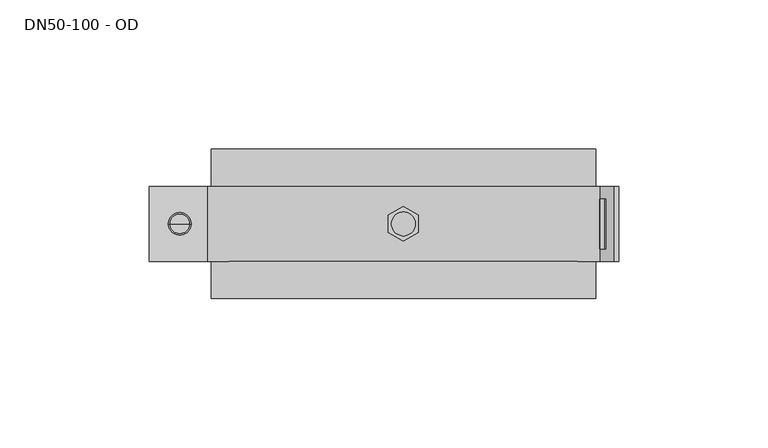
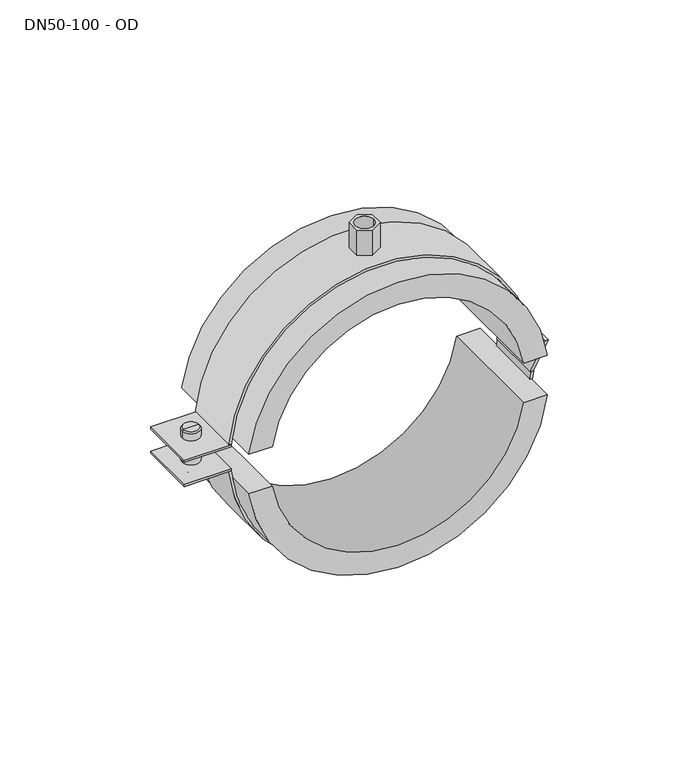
"""IFC4 building model written with IfcOpenShell, lengths in millimetres: unitary equipment geometry, NLRS_52_ME_UN_Geberit beugel geïsoleerd, met draadbus M8 _ M10_PRO_178429 : DN50-100 - OD."""

import ifcopenshell
import ifcopenshell.guid

model = None  # the IFC model being written
_history = None  # IfcOwnerHistory: only IFC2X3 demands one
_inside = {}  # id of a spatial element -> (the spatial element, [elements in it])
_under = {}  # id of a project, library or spatial element -> (it, [spatial elements below it])
_declared = {}  # id of a project -> (the project, [libraries it declares])
_typed = {}  # id of a type object -> (the type object, [elements of that type])
_made_of = {}  # id of a material, layer set ... -> (it, [elements and type objects made of it])


def new_model(schema):
    """Start an empty IFC model of exactly this schema.

    Asked for "IFC4X3", IfcOpenShell would pick the latest addendum, in which some entities
    have other attributes; the version numbers below select the first issue.
    IFC2X3 requires an IfcOwnerHistory on every rooted entity: one is made here for all.
    """
    global model, _history
    if schema == "IFC4X3":
        model = ifcopenshell.file(schema_version=(4, 3, 0, 0))
    else:
        model = ifcopenshell.file(schema=schema)
    _inside.clear()
    _under.clear()
    _declared.clear()
    _typed.clear()
    _made_of.clear()
    _history = None
    if model.schema == "IFC2X3":
        org = make("IfcOrganization", Name="unknown")
        user = make(
            "IfcPersonAndOrganization",
            ThePerson=make("IfcPerson", FamilyName="unknown"),
            TheOrganization=org,
        )
        app = make(
            "IfcApplication",
            ApplicationDeveloper=org,
            Version="unknown",
            ApplicationFullName="unknown",
            ApplicationIdentifier="unknown",
        )
        _history = make(
            "IfcOwnerHistory",
            OwningUser=user,
            OwningApplication=app,
            ChangeAction="ADDED",
            CreationDate=0,
        )
    return model


def make(cls, **values):
    """One entity of the class cls with the attributes given. An attribute that is None is left unset."""
    return model.create_entity(
        cls, **{name: value for name, value in values.items() if value is not None}
    )


def rooted(cls, **values):
    """An entity with a GlobalId (a new one), such as an element, a storey or a relation."""
    return make(cls, GlobalId=ifcopenshell.guid.new(), OwnerHistory=_history, **values)


def si_unit(unit_type, name, prefix=None):
    """IfcSIUnit, for example si_unit("LENGTHUNIT", "METRE", prefix="MILLI")."""
    return make("IfcSIUnit", UnitType=unit_type, Prefix=prefix, Name=name)


def assignment(units):
    """IfcUnitAssignment: the units of a project."""
    return None if units is None else make("IfcUnitAssignment", Units=units)


def point(xyz):
    """IfcCartesianPoint."""
    return None if xyz is None else make("IfcCartesianPoint", Coordinates=xyz)


def direction(xyz):
    """IfcDirection."""
    return None if xyz is None else make("IfcDirection", DirectionRatios=xyz)


def frame(location, z_axis=None, x_axis=None):
    """IfcAxis2Placement3D, a coordinate frame: its origin and axes. An axis left out is left unset."""
    return make(
        "IfcAxis2Placement3D",
        Location=point(location),
        Axis=direction(z_axis),
        RefDirection=direction(x_axis),
    )


def frame_2d(location, x_axis=None):
    """IfcAxis2Placement2D, a coordinate frame in the plane: its origin and x axis."""
    return make(
        "IfcAxis2Placement2D", Location=point(location), RefDirection=direction(x_axis)
    )


def origin():
    """The frame at (0, 0, 0) with its axes left unset."""
    return frame((0.0, 0.0, 0.0))


def origin_2d():
    """The frame at (0, 0) in the plane with its x axis left unset."""
    return frame_2d((0.0, 0.0))


def place(relative_to, where):
    """IfcLocalPlacement: puts the frame where relative to a parent placement (None: the world)."""
    return make(
        "IfcLocalPlacement", PlacementRelTo=relative_to, RelativePlacement=where
    )


def context(
    kind, dimensions, precision=None, world=None, true_north=None, identifier=None
):
    """IfcGeometricRepresentationContext, for example the 3D "Model" context."""
    return make(
        "IfcGeometricRepresentationContext",
        ContextIdentifier=identifier,
        ContextType=kind,
        CoordinateSpaceDimension=dimensions,
        Precision=precision,
        WorldCoordinateSystem=world,
        TrueNorth=true_north,
    )


def project(units=None, contexts=None):
    """IfcProject with its units and contexts."""
    return rooted(
        "IfcProject",
        Name="project",
        RepresentationContexts=contexts,
        UnitsInContext=assignment(units),
    )


def spatial(cls, under=None, at=None, **own):
    """A site, building, storey or space (cls), placed at a placement, below another one or the project."""
    s = rooted(cls, ObjectPlacement=at, **own)
    if under is not None:
        _under.setdefault(under.id(), (under, []))[1].append(s)
    return s


def polyline(points):
    """IfcPolyline through the points."""
    return make("IfcPolyline", Points=[point(p) for p in points])


def circle_curve(where, radius):
    """IfcCircle in the frame where."""
    return make("IfcCircle", Position=where, Radius=radius)


def ellipse_curve(where, semi_axis1, semi_axis2):
    """IfcEllipse in the frame where."""
    return make(
        "IfcEllipse", Position=where, SemiAxis1=semi_axis1, SemiAxis2=semi_axis2
    )


def trimmed(basis, trim1, trim2, sense, master):
    """IfcTrimmedCurve: the piece of a basis curve between two trims."""
    return make(
        "IfcTrimmedCurve",
        BasisCurve=basis,
        Trim1=trim1,
        Trim2=trim2,
        SenseAgreement=sense,
        MasterRepresentation=master,
    )


def segment(curve, same_sense, transition):
    """IfcCompositeCurveSegment."""
    return make(
        "IfcCompositeCurveSegment",
        Transition=transition,
        SameSense=same_sense,
        ParentCurve=curve,
    )


def composite_curve(segments, self_intersect=None):
    """IfcCompositeCurve: segments joined end to end."""
    return make("IfcCompositeCurve", Segments=segments, SelfIntersect=self_intersect)


def outline(outer, holes=None, kind="AREA"):
    """IfcArbitraryClosedProfileDef: a profile drawn as a closed curve; with holes, ...WithVoids."""
    if holes is None:
        return make("IfcArbitraryClosedProfileDef", ProfileType=kind, OuterCurve=outer)
    return make(
        "IfcArbitraryProfileDefWithVoids",
        ProfileType=kind,
        OuterCurve=outer,
        InnerCurves=holes,
    )


def extrude(swept, where, along, depth):
    """IfcExtrudedAreaSolid: the profile swept, set in the frame where, extruded along a direction by depth."""
    return make(
        "IfcExtrudedAreaSolid",
        SweptArea=swept,
        Position=where,
        ExtrudedDirection=direction(along),
        Depth=depth,
    )


def shape(context_of_items, identifier, shape_type, items):
    """IfcShapeRepresentation: the items that make up one representation, for example the "Body"."""
    return make(
        "IfcShapeRepresentation",
        ContextOfItems=context_of_items,
        RepresentationIdentifier=identifier,
        RepresentationType=shape_type,
        Items=items,
    )


def source(mapping_origin, context_of_items, identifier, shape_type, items):
    """IfcRepresentationMap: a shape defined once, which mapped items show again and again."""
    return make(
        "IfcRepresentationMap",
        MappingOrigin=mapping_origin,
        MappedRepresentation=shape(context_of_items, identifier, shape_type, items),
    )


def transform(
    local_origin,
    x_axis=None,
    y_axis=None,
    z_axis=None,
    scale=None,
    scale2=None,
    scale3=None,
    uniform=True,
):
    """IfcCartesianTransformationOperator3D, or its non-uniform kind. x_axis, y_axis, z_axis: its Axis1, 2, 3."""
    if uniform:
        return make(
            "IfcCartesianTransformationOperator3D",
            Axis1=direction(x_axis),
            Axis2=direction(y_axis),
            LocalOrigin=point(local_origin),
            Scale=scale,
            Axis3=direction(z_axis),
        )
    return make(
        "IfcCartesianTransformationOperator3DnonUniform",
        Axis1=direction(x_axis),
        Axis2=direction(y_axis),
        LocalOrigin=point(local_origin),
        Scale=scale,
        Axis3=direction(z_axis),
        Scale2=scale2,
        Scale3=scale3,
    )


def mapped(mapping_source, mapping_target):
    """IfcMappedItem: shows the shape of a source again, moved by a transform."""
    return make(
        "IfcMappedItem", MappingSource=mapping_source, MappingTarget=mapping_target
    )


def made_of(thing, what):
    """Note that an element or type object is made of a material, layer set ...; save() writes the relation."""
    if what is not None:
        _made_of.setdefault(what.id(), (what, []))[1].append(thing)
    return thing


def element(
    cls,
    number,
    at=None,
    inside=None,
    cuts=None,
    type_object=None,
    material=None,
    context=None,
    identifier="Body",
    shape_type=None,
    held_by="IfcProductDefinitionShape",
    body=None,
    shapes=None,
    **own,
):
    """One element of the class cls, such as IfcWall. Its Tag is "e" and its number.

    at: its placement. inside: the storey or other place that contains it. cuts: it is an
    opening in that element (IfcRelVoidsElement). A single representation is given by context,
    identifier, shape_type and body (its items); several are given by shapes. held_by: the class
    of the entity that holds the representations. save() writes the other relations.
    """
    e = rooted(cls, Tag="e%d" % number, ObjectPlacement=at, **own)
    if body is not None:
        shapes = [shape(context, identifier, shape_type, body)]
    if shapes is not None:
        e.Representation = make(held_by, Representations=shapes)
    if inside is not None:
        _inside.setdefault(inside.id(), (inside, []))[1].append(e)
    if cuts is not None:
        rooted(
            "IfcRelVoidsElement", RelatingBuildingElement=cuts, RelatedOpeningElement=e
        )
    if type_object is not None:
        _typed.setdefault(type_object.id(), (type_object, []))[1].append(e)
    return made_of(e, material)


def aggregate(whole, parts):
    """IfcRelAggregates: a whole, such as a stair, and the parts it consists of."""
    return rooted("IfcRelAggregates", RelatingObject=whole, RelatedObjects=parts)


def save(model, path):
    """Write the relations noted so far, then the file.

    IfcRelAggregates (storeys below a building ...), IfcRelContainedInSpatialStructure (elements
    in a storey), IfcRelDefinesByType, IfcRelAssociatesMaterial and IfcRelDeclares: one each for
    every whole, place, type object, material and project.
    """
    for whole, parts in _under.values():
        aggregate(whole, parts)
    for where, things in _inside.values():
        rooted(
            "IfcRelContainedInSpatialStructure",
            RelatedElements=things,
            RelatingStructure=where,
        )
    for kind, things in _typed.values():
        rooted("IfcRelDefinesByType", RelatedObjects=things, RelatingType=kind)
    for what, things in _made_of.values():
        rooted("IfcRelAssociatesMaterial", RelatedObjects=things, RelatingMaterial=what)
    for by, libraries in _declared.values():
        rooted("IfcRelDeclares", RelatingContext=by, RelatedDefinitions=libraries)
    model.write(path)


def plane_surface(at):
    """IfcPlane: the flat surface through the origin of the frame at, square to its z axis."""
    return make("IfcPlane", Position=at)


def cylinder_surface(at, radius):
    """IfcCylindricalSurface: all points at the distance radius from the z axis of the frame at."""
    return make("IfcCylindricalSurface", Position=at, Radius=radius)


def revolved_surface(curve, axis_point, axis_direction):
    """IfcSurfaceOfRevolution: the curve turned about the line through axis_point along axis_direction."""
    return make(
        "IfcSurfaceOfRevolution",
        SweptCurve=make("IfcArbitraryOpenProfileDef", ProfileType="CURVE", Curve=curve),
        AxisPosition=make("IfcAxis1Placement", Location=point(axis_point), Axis=direction(axis_direction)),
    )


def advanced_brep(points, edges, surfaces, faces):
    """IfcAdvancedBrep: a solid bounded by faces that lie on surfaces and meet in shared edges.

    An edge is (start, end): straight between two places in points (the first is 0);
    or (start, end, curve); or (start, end, curve, False) where it runs against its curve.
    A face is (place in surfaces, loops), or (place, loops, False) where it looks against
    its surface's normal. A loop lists edges by number (the first is 1), with a minus sign
    where the edge is run from its end to its start. The first loop is the outer one.
    """
    corners = [point(p) for p in points]
    vertices = [make("IfcVertexPoint", VertexGeometry=c) for c in corners]
    made = []
    for start, end, *more in edges:
        made.append(
            make(
                "IfcEdgeCurve",
                EdgeStart=vertices[start],
                EdgeEnd=vertices[end],
                EdgeGeometry=more[0] if more else make("IfcPolyline", Points=[corners[start], corners[end]]),
                SameSense=more[1] if len(more) > 1 else True,
            )
        )
    hull = []
    for where, loops, *sense in faces:
        bounds = []
        for j, loop in enumerate(loops):
            ring = [make("IfcOrientedEdge", EdgeElement=made[abs(k) - 1], Orientation=k > 0) for k in loop]
            bounds.append(
                make(
                    "IfcFaceOuterBound" if j == 0 else "IfcFaceBound",
                    Bound=make("IfcEdgeLoop", EdgeList=ring),
                    Orientation=True,
                )
            )
        hull.append(make("IfcAdvancedFace", Bounds=bounds, FaceSurface=surfaces[where], SameSense=sense[0] if sense else True))
    return make("IfcAdvancedBrep", Outer=make("IfcClosedShell", CfsFaces=hull))


def dn50_100_od_e17b0297(model_context):
    return source(origin(), model_context, "Body", "SolidModel", [
        extrude(outline(polyline([(-5.0, -2.8867513), (-5.0, 2.8867513), (0.0, 5.7735027), (5.0, 2.8867513), (5.0, -2.8867513), (0.0, -5.7735027), (-5.0, -2.8867513)]), holes=[composite_curve([segment(trimmed(circle_curve(origin_2d(), 4.0), [point((-4.0, 0.0))], [point((4.0, 0.0))], True, "CARTESIAN"), True, "CONTINUOUS"), segment(trimmed(circle_curve(origin_2d(), 4.0), [point((4.0, 0.0))], [point((-4.0, 0.0))], True, "CARTESIAN"), True, "CONTINUOUS")], self_intersect=False)]), frame((0.0, 0.0, 55.0), z_axis=(0.0, 0.0, 1.0), x_axis=(1.0, 0.0, 0.0)), (0.0, 0.0, 1.0), 22.0),
        extrude(outline(polyline([(6.0192388, 70.5871566), (-6.0, 64.2), (-6.0, 65.5277555), (5.9947953, 72.0010628), (6.0192388, 70.5871566)])), frame((0.0, -12.5, 0.0), z_axis=(0.0, 1.0, 0.0), x_axis=(0.0, 0.0, 1.0)), (0.0, 0.0, 1.0), 25.0),
        extrude(outline(polyline([(-64.7224845, 12.5), (-64.7224845, -12.5), (-85.0, -12.5), (-85.0, 12.5), (-64.7224845, 12.5)])), frame((0.0, 0.0, 5.0), z_axis=(0.0, 0.0, 1.0), x_axis=(1.0, 0.0, 0.0)), (0.0, 0.0, 1.0), 1.0),
        extrude(outline(polyline([(-64.7224845, 12.5), (-64.7224845, -12.5), (-85.0, -12.5), (-85.0, 12.5), (-64.7224845, 12.5)])), frame((0.0, 0.0, -6.0), z_axis=(0.0, 0.0, 1.0), x_axis=(1.0, 0.0, 0.0)), (0.0, 0.0, 1.0), 1.0),
        extrude(outline(composite_curve([segment(polyline([(2.9933165, 65.7267069), (6.0, 65.7267069), (6.0, 64.7224845), (0.0, 64.7224845), (0.0, 71.0), (1.3, 71.0), (1.3, 67.4200234)]), True, "CONTINUOUS"), segment(trimmed(circle_curve(frame_2d((2.9933165, 67.4200234)), 1.6933165), [point((1.3, 67.4200234))], [point((2.9933165, 65.7267069))], True, "CARTESIAN"), True, "CONTINUOUS")], self_intersect=False)), frame((0.0, -8.3424324, 0.0), z_axis=(0.0, 1.0, 0.0), x_axis=(0.0, 0.0, 1.0)), (0.0, 0.0, 1.0), 16.6903518),
        extrude(outline(composite_curve([segment(polyline([(-6.0, 65.7267069), (-6.0, 64.7224845)]), True, "CONTINUOUS"), segment(trimmed(circle_curve(origin_2d(), 65.0), [point((-6.0, 64.7224845))], [point((-6.0, -64.7224845))], True, "CARTESIAN"), True, "CONTINUOUS"), segment(polyline([(-6.0, -64.7224845), (-6.0, -65.7267069)]), True, "CONTINUOUS"), segment(trimmed(circle_curve(origin_2d(), 66.0), [point((-6.0, -65.7267069))], [point((-6.0, 65.7267069))], False, "CARTESIAN"), True, "CONTINUOUS")], self_intersect=False)), frame((0.0, -12.5, 0.0), z_axis=(0.0, 1.0, 0.0), x_axis=(0.0, 0.0, 1.0)), (0.0, 0.0, 1.0), 25.0),
        extrude(outline(composite_curve([segment(polyline([(6.0, -65.7267069), (6.0, -64.7224845)]), True, "CONTINUOUS"), segment(trimmed(circle_curve(origin_2d(), 65.0), [point((6.0, -64.7224845))], [point((6.0, 64.7224845))], True, "CARTESIAN"), True, "CONTINUOUS"), segment(polyline([(6.0, 64.7224845), (6.0, 65.7267069)]), True, "CONTINUOUS"), segment(trimmed(circle_curve(origin_2d(), 66.0), [point((6.0, 65.7267069))], [point((6.0, -65.7267069))], False, "CARTESIAN"), True, "CONTINUOUS")], self_intersect=False)), frame((0.0, -12.5, 0.0), z_axis=(0.0, 1.0, 0.0), x_axis=(0.0, 0.0, 1.0)), (0.0, 0.0, 1.0), 25.0),
        advanced_brep(
        [(-69.6138167, 0.0, -6.0), (-80.1086678, 0.0, -6.0), (-78.6612423, 0.0, -6.0), (-71.0612423, 0.0, -6.0), (-70.9830063, 0.0, -7.897503), (-78.7394782, 0.0, -7.897503), (-74.8612423, 0.0, -7.897503), (-71.6263065, 0.0, 10.1139206), (-78.096178, 0.0, 10.1139206), (-74.8612423, 0.0, 10.1139206), (-71.0612423, 0.0, 9.5488563), (-78.6612423, 0.0, 9.5488563)],
        [
            (0, 1, circle_curve(frame((-74.8612423, 0.0, -6.0), z_axis=(0.0, 0.0, 1.0), x_axis=(-1.0, 0.0, 0.0)), 5.2474255)),
            (1, 2),
            (2, 3, circle_curve(frame((-74.8612423, 0.0, -6.0), z_axis=(0.0, 0.0, -1.0), x_axis=(-1.0, 0.0, 0.0)), 3.8)),
            (3, 0),
            (1, 0, circle_curve(frame((-74.8612423, 0.0, -6.0), z_axis=(0.0, 0.0, 1.0), x_axis=(-1.0, 0.0, 0.0)), 5.2474255)),
            (3, 2, circle_curve(frame((-74.8612423, 0.0, -6.0), z_axis=(0.0, 0.0, -1.0), x_axis=(-1.0, 0.0, 0.0)), 3.8)),
            (4, 5, circle_curve(frame((-74.8612423, 0.0, -7.897503), z_axis=(0.0, 0.0, 1.0), x_axis=(-1.0, 0.0, 0.0)), 3.878236)),
            (5, 1, circle_curve(frame((-78.7394782, 0.0, -6.4547655), z_axis=(0.0, 1.0, 0.0), x_axis=(-1.0, 0.0, 0.0)), 1.4427376)),
            (0, 4, circle_curve(frame((-70.9830063, 0.0, -6.4547655), z_axis=(0.0, 1.0, 0.0), x_axis=(1.0, 0.0, 0.0)), 1.4427376)),
            (5, 4, circle_curve(frame((-74.8612423, 0.0, -7.897503), z_axis=(0.0, 0.0, 1.0), x_axis=(-1.0, 0.0, 0.0)), 3.878236)),
            (6, 5),
            (4, 6),
            (7, 8, circle_curve(frame((-74.8612423, 0.0, 10.1139206), z_axis=(0.0, 0.0, 1.0), x_axis=(-1.0, 0.0, 0.0)), 3.2349358)),
            (8, 9),
            (9, 7),
            (8, 7, circle_curve(frame((-74.8612423, 0.0, 10.1139206), z_axis=(0.0, 0.0, 1.0), x_axis=(-1.0, 0.0, 0.0)), 3.2349358)),
            (10, 11, circle_curve(frame((-74.8612423, 0.0, 9.5488563), z_axis=(0.0, 0.0, 1.0), x_axis=(-1.0, 0.0, 0.0)), 3.8)),
            (11, 8),
            (7, 10),
            (11, 10, circle_curve(frame((-74.8612423, 0.0, 9.5488563), z_axis=(0.0, 0.0, 1.0), x_axis=(-1.0, 0.0, 0.0)), 3.8)),
            (2, 11),
            (10, 3),
        ],
        [
            plane_surface(frame((-74.8612423, 0.0, -6.0), z_axis=(0.0, 0.0, 1.0), x_axis=(-1.0, 0.0, 0.0))),
            revolved_surface(trimmed(ellipse_curve(frame((-78.7394782, 0.0, -6.4547655), z_axis=(0.0, -1.0, 0.0), x_axis=(-1.0, 0.0, 0.0)), 1.4427376, 1.4427376), [point((-80.1086678, 0.0, -6.0))], [point((-78.7394782, 0.0, -7.897503))], True, "CARTESIAN"), (-74.8612423, 0.0, 7.4576706), (0.0, 0.0, -1.0)),
            plane_surface(frame((-74.8612423, 0.0, -7.897503), z_axis=(0.0, 0.0, -1.0), x_axis=(-1.0, 0.0, 0.0))),
            plane_surface(frame((-74.8612423, 0.0, 10.1139206), z_axis=(0.0, 0.0, 1.0), x_axis=(-1.0, 0.0, 0.0))),
            revolved_surface(polyline([(-78.096178, 0.0, 10.1139206), (-78.6612423, 0.0, 9.5488563)]), (-74.8612423, 0.0, 7.4576706), (0.0, 0.0, -1.0)),
            cylinder_surface(frame((-74.8612423, 0.0, 7.4576706), z_axis=(0.0, 0.0, -1.0), x_axis=(-1.0, 0.0, 0.0)), 3.8),
        ],
        [
            (0, [[1, 2, 3, 4]]),
            (0, [[5, -4, 6, -2]]),
            (1, [[7, 8, -1, 9]]),
            (1, [[10, -9, -5, -8]]),
            (2, [[11, -7, 12]]),
            (2, [[-12, -10, -11]]),
            (3, [[13, 14, 15]]),
            (3, [[16, -15, -14]]),
            (4, [[17, 18, -13, 19]]),
            (4, [[20, -19, -16, -18]]),
            (5, [[-3, 21, -17, 22]]),
            (5, [[-6, -22, -20, -21]]),
        ],
    ),
        extrude(outline(composite_curve([segment(trimmed(circle_curve(origin_2d(), 55.0), [point((9.0, -54.2586399))], [point((9.0, 54.2586399))], True, "CARTESIAN"), True, "CONTINUOUS"), segment(polyline([(9.0, 54.2586399), (9.0, 64.3739078)]), True, "CONTINUOUS"), segment(trimmed(circle_curve(origin_2d(), 65.0), [point((9.0, 64.3739078))], [point((9.0, -64.3739078))], False, "CARTESIAN"), True, "CONTINUOUS"), segment(polyline([(9.0, -64.3739078), (9.0, -54.2586399)]), True, "CONTINUOUS")], self_intersect=False)), frame((0.0, -25.0, 0.0), z_axis=(0.0, 1.0, 0.0), x_axis=(0.0, 0.0, 1.0)), (0.0, 0.0, 1.0), 50.0),
        extrude(outline(composite_curve([segment(trimmed(circle_curve(origin_2d(), 55.0), [point((-9.0, 54.2586399))], [point((-9.0, -54.2586399))], True, "CARTESIAN"), True, "CONTINUOUS"), segment(polyline([(-9.0, -54.2586399), (-9.0, -64.3739078)]), True, "CONTINUOUS"), segment(trimmed(circle_curve(origin_2d(), 65.0), [point((-9.0, -64.3739078))], [point((-9.0, 64.3739078))], False, "CARTESIAN"), True, "CONTINUOUS"), segment(polyline([(-9.0, 64.3739078), (-9.0, 54.2586399)]), True, "CONTINUOUS")], self_intersect=False)), frame((0.0, -25.0, 0.0), z_axis=(0.0, 1.0, 0.0), x_axis=(0.0, 0.0, 1.0)), (0.0, 0.0, 1.0), 50.0),
    ])


if __name__ == "__main__":
    model = new_model("IFC4")
    model_context = context("Model", 3, world=origin())
    ifc_project = project(units=[si_unit("LENGTHUNIT", "METRE", prefix="MILLI")], contexts=[model_context])
    site = spatial("IfcSite", under=ifc_project)
    building = spatial("IfcBuilding", under=site)
    placement = place(None, origin())
    dn50_100_od_shape = dn50_100_od_e17b0297(model_context)
    element("IfcUnitaryEquipment", 1, ObjectType="NLRS_52_ME_UN_Geberit beugel geïsoleerd, met draadbus M8 _ M10_PRO_178429 : DN50-100 - OD", at=placement, inside=building, context=model_context, shape_type="MappedRepresentation", body=[
        mapped(dn50_100_od_shape, transform((0.0, 0.0, 0.0), x_axis=(1.0, 0.0, 0.0), y_axis=(0.0, 1.0, 0.0), z_axis=(0.0, 0.0, 1.0))),
    ])
    save(model, "model.ifc")
